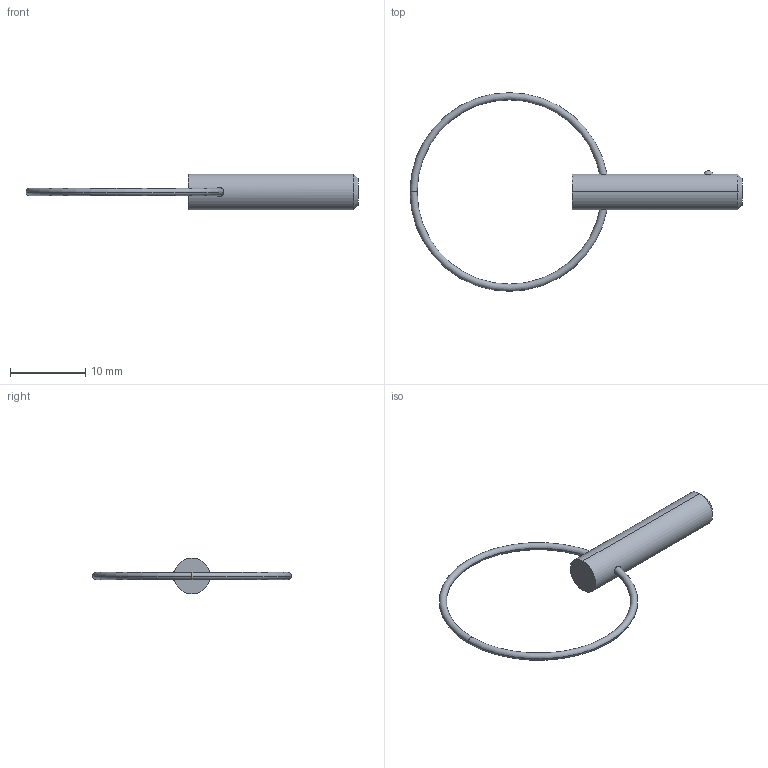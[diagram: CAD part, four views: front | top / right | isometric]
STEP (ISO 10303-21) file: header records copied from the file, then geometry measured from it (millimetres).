
FILE_DESCRIPTION (( 'STEP AP203' ), '1' );
FILE_NAME ('33012.W1805.step', '2024-11-01T14:05:39', ( '' ), ( '' ), 'SwSTEP 2.0', 'SolidWorks 2019', '' );
FILE_SCHEMA (( 'CONFIG_CONTROL_DESIGN' ));
Length unit declared in the file: millimetre
Products named in the file (3): Part1_33012.W1805; Part2_33012.W1805; 33012.W1805
Assembly tree (2 placements, depth 2):
  33012.W1805
    Part1_33012.W1805
    Part2_33012.W1805
Bounding box: 44.04 x 26.35 x 4.76 mm (x, y, z)
Volume: 450.3 mm3; surface area: 621.5 mm2
Topology: 2 solids, 2 shells, 16 faces, 31 edges, 18 vertices
Faces by surface type: torus 8, sphere 2, cone 2, cylinder 2, plane 2
Entity records: 779 total; most frequent: CARTESIAN_POINT 136, DIRECTION 88, ORIENTED_EDGE 62, AXIS2_PLACEMENT_3D 42, EDGE_CURVE 31, PERSON_AND_ORGANIZATION 26, CIRCLE 21, COORDINATED_UNIVERSAL_TIME_OFFSET 19
